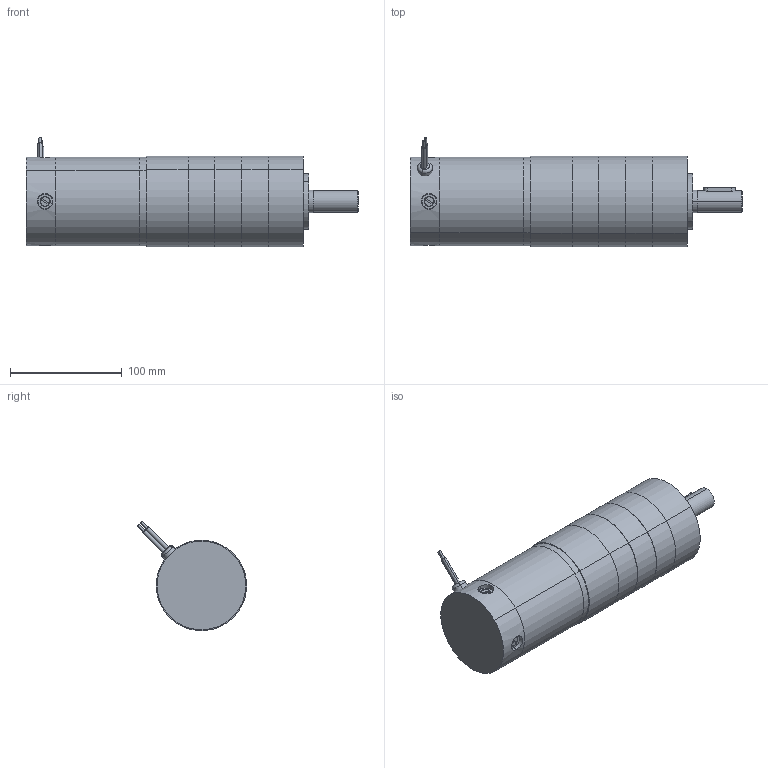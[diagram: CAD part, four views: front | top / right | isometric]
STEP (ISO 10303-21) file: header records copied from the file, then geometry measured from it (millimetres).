
FILE_DESCRIPTION (( 'STEP AP203' ), '1' );
FILE_NAME ('d33455bgp3.step', '2018-12-07T19:31:41', ( '' ), ( '' ), 'SwSTEP 2.0', 'SolidWorks 2017', '' );
FILE_SCHEMA (( 'CONFIG_CONTROL_DESIGN' ));
Length unit declared in the file: inch
Products named in the file (1): d33455bgp3
Bounding box: 296.96 x 97.55 x 97.55 mm (x, y, z)
Volume: 1286502.7 mm3; surface area: 164685.5 mm2
Topology: 19 solids, 19 shells, 368 faces, 776 edges, 482 vertices
Faces by surface type: cylinder 155, plane 150, cone 53, torus 6, sphere 4
Entity records: 10304 total; most frequent: CARTESIAN_POINT 2141, DIRECTION 1831, ORIENTED_EDGE 1520, EDGE_CURVE 760, AXIS2_PLACEMENT_3D 732, VERTEX_POINT 482, EDGE_LOOP 436, ADVANCED_FACE 368
